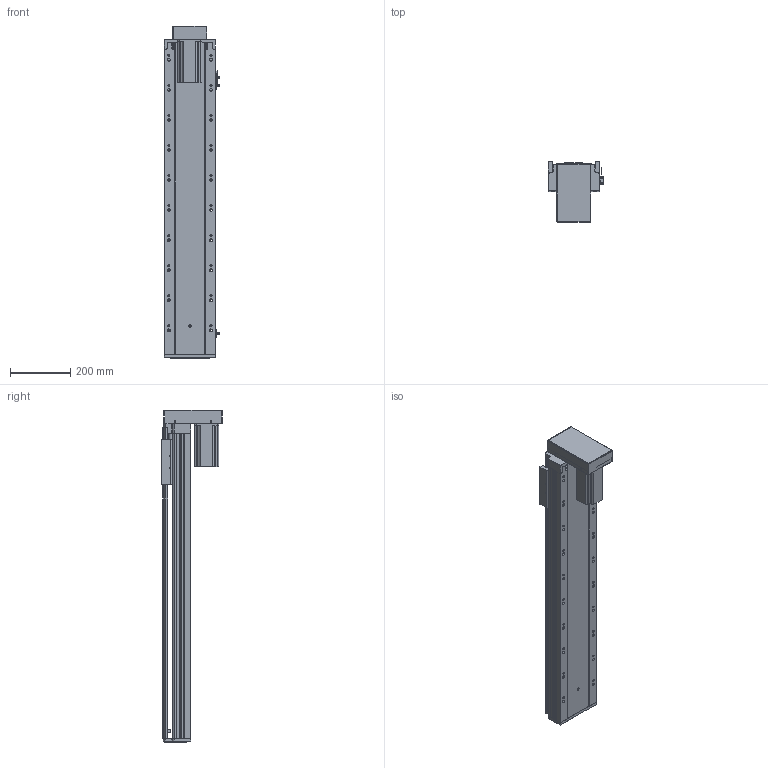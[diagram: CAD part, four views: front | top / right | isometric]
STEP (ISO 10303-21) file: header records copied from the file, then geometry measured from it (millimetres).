
FILE_DESCRIPTION (( 'STEP AP203' ), '1' );
FILE_NAME ('RY170-L2510-300-BK.SLDASM_800.step', '2021-03-12T08:58:22', ( '盈信电脑' ), ( '东莞市道滘镇水果街19号' ), 'SwSTEP 2.0', 'SolidWorks 2012', '' );
FILE_SCHEMA (( 'CONFIG_CONTROL_DESIGN' ));
Length unit declared in the file: millimetre
Products named in the file (14): RY170-L2510-300-BK.SLDASM_800; RY170-狟殏萇儂假蚾啣; 怢湛750W萇儂ㄗ80遺ㄘ; RY170狟殏萇儂欶; RY170-狟殏750W萇儂傷; 滅袉蝶18-10; 滅袉蝶18-20; RY170外置感应片(200共用）; RY170转折电机端支撑座(7004); 改造-RY170铝滑块25丝杆螺母; RY170-300倰第裔啣-BK_800; 覜茼ん672; RY170綴裔啣; RY170-300倰第菁釱-BK_800
Assembly tree (15 placements, depth 3):
  RY170-L2510-300-BK.SLDASM_800
    RY170-300倰第菁釱-BK_800
    改造-RY170铝滑块25丝杆螺母
    RY170-300倰第裔啣-BK_800
    RY170綴裔啣
    覜茼ん672  x3
    RY170外置感应片(200共用）
    滅袉蝶18-20
    滅袉蝶18-10
    RY170转折电机端支撑座(7004)
    RY170-狟殏750W萇儂傷
      RY170-狟殏萇儂假蚾啣
      RY170狟殏萇儂欶
      怢湛750W萇儂ㄗ80遺ㄘ
Bounding box: 183.7 x 200.8 x 1104.5 mm (x, y, z)
Volume: 6343034.4 mm3; surface area: 1943562.2 mm2
Topology: 14 solids, 14 shells, 2216 faces, 6433 edges, 4142 vertices
Faces by surface type: plane 1086, cylinder 941, cone 170, bspline 19
Entity records: 73074 total; most frequent: CARTESIAN_POINT 18178, ORIENTED_EDGE 11618, DIRECTION 10563, EDGE_CURVE 5809, VERTEX_POINT 3822, AXIS2_PLACEMENT_3D 3525, LINE 3513, VECTOR 3513
